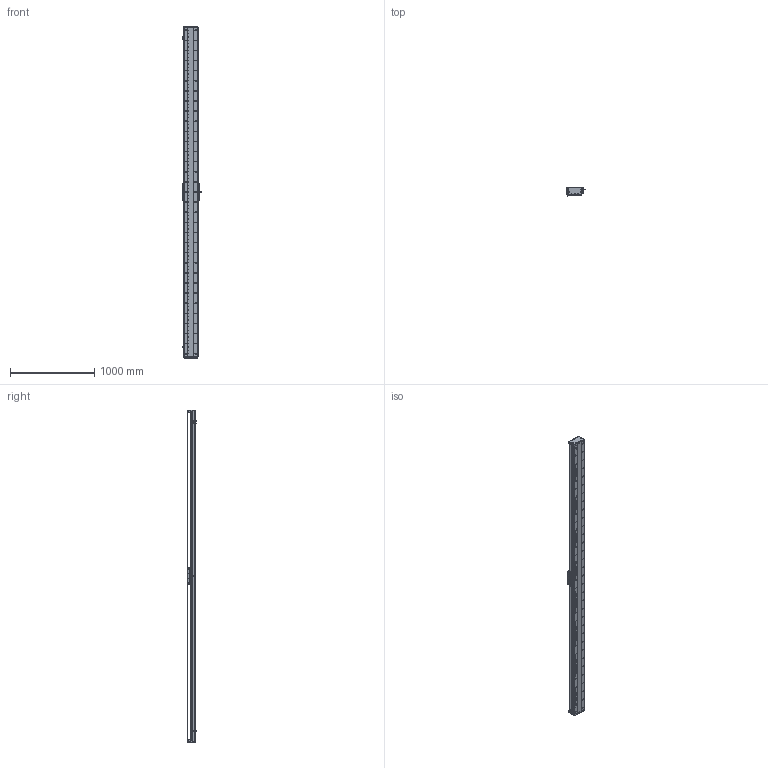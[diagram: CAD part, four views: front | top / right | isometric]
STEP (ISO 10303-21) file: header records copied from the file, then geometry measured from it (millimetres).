
FILE_DESCRIPTION (( 'STEP AP203' ), '1' );
FILE_NAME ('DA-C165-C2-T3660-C010-0.2 直线电机.STEP', '2023-05-11T08:08:04', ( '微软用户' ), ( '微软中国' ), 'SwSTEP 2.0', 'SolidWorks 2019', '' );
FILE_SCHEMA (( 'CONFIG_CONTROL_DESIGN' ));
Length unit declared in the file: millimetre
Products named in the file (18): 葩璃 DA95-GT-T-00^IU-CU165-L 菁釱絳寢_T; 复件 DA165-GD-1860-002-00 钢带盖板^复件 CU165钢带组件_DA-C165-C2-T-C010-0.2-N 直线电机; IU-CU165-L 菁釱絳寢; 葩璃 PM-T45^DA-C165-C2-T-C010-0.2-N 眻盄萇儂; 复件 DMA-010-0.2 读数头^DA-C165-C2-T-C010-0.2-N 直线电机; DA-C165-C2-T3660-C010-0.2 眻盄萇儂; 复件 DA165-GD-DG-H-00 端盖^复件 CU165钢带组件_DA-C165-C2-T-C010-0.2-N 直线电机; 珨极趙賑雄怢啣wf-C2; 复件 CU165钢带组件^DA-C165-C2-T-C010-0.2-N 直线电机; 复件 DA95-HXJ-00 缓冲橡胶^DA-C165-C2-T-C010-0.2-N 直线电机; 复件 DA165-GDYK-00 钢带压块^复件 CU165钢带组件_DA-C165-C2-T-C010-0.2-N 直线电机; 葩璃 CKM01-W075-TRL^DA-C165-C2-T-C010-0.2-N 眻盄萇儂; 复件 DA165-GDLK-00 钢带拉块^复件 CU165钢带组件_DA-C165-C2-T-C010-0.2-N 直线电机; 复件 DA165-GYP-00 光电感应片^DA-C165-C2-T-C010-0.2-N 直线电机; 复件 CKM02-W075-C1C2-TP-3.0 一体电机-C2^DA-C165-C2-T-C010-0.2-N 直线电机; IU-CU165-L-00 菁釱_L3900; 复件 六角薄螺母 M3^DA-C165-C2-T-C010-0.2-N 直线电机_GB_FASTENER_NUT_STNAB M3-C; 复件 XD-U-02L 磁栅尺^DA-C165-C2-T-C010-0.2-N 直线电机_T
Assembly tree (33 placements, depth 3):
  DA-C165-C2-T3660-C010-0.2 眻盄萇儂
    IU-CU165-L 菁釱絳寢
      IU-CU165-L-00 菁釱_L3900
      葩璃 DA95-GT-T-00^IU-CU165-L 菁釱絳寢_T  x4
    复件 XD-U-02L 磁栅尺^DA-C165-C2-T-C010-0.2-N 直线电机_T
    葩璃 PM-T45^DA-C165-C2-T-C010-0.2-N 眻盄萇儂  x3
    葩璃 CKM01-W075-TRL^DA-C165-C2-T-C010-0.2-N 眻盄萇儂
    复件 CU165钢带组件^DA-C165-C2-T-C010-0.2-N 直线电机
      复件 DA165-GD-DG-H-00 端盖^复件 CU165钢带组件_DA-C165-C2-T-C010-0.2-N 直线电机  x2
      复件 DA165-GDYK-00 钢带压块^复件 CU165钢带组件_DA-C165-C2-T-C010-0.2-N 直线电机  x2
      复件 DA165-GD-1860-002-00 钢带盖板^复件 CU165钢带组件_DA-C165-C2-T-C010-0.2-N 直线电机
      复件 DA165-GDLK-00 钢带拉块^复件 CU165钢带组件_DA-C165-C2-T-C010-0.2-N 直线电机  x2
    复件 DA95-HXJ-00 缓冲橡胶^DA-C165-C2-T-C010-0.2-N 直线电机  x4
    复件 DA165-GYP-00 光电感应片^DA-C165-C2-T-C010-0.2-N 直线电机
    复件 DMA-010-0.2 读数头^DA-C165-C2-T-C010-0.2-N 直线电机
    复件 CKM02-W075-C1C2-TP-3.0 一体电机-C2^DA-C165-C2-T-C010-0.2-N 直线电机
    复件 六角薄螺母 M3^DA-C165-C2-T-C010-0.2-N 直线电机_GB_FASTENER_NUT_STNAB M3-C  x6
    珨极趙賑雄怢啣wf-C2
Bounding box: 233 x 111.45 x 3940 mm (x, y, z)
Volume: 20863250.4 mm3; surface area: 6417969.2 mm2
Topology: 70 solids, 70 shells, 4551 faces, 13933 edges, 8989 vertices
Faces by surface type: cylinder 2925, plane 1146, cone 430, torus 46, sphere 4
Entity records: 164997 total; most frequent: CARTESIAN_POINT 47829, ORIENTED_EDGE 25038, DIRECTION 23289, EDGE_CURVE 12519, AXIS2_PLACEMENT_3D 8969, VERTEX_POINT 8225, EDGE_LOOP 5604, VECTOR 5351
